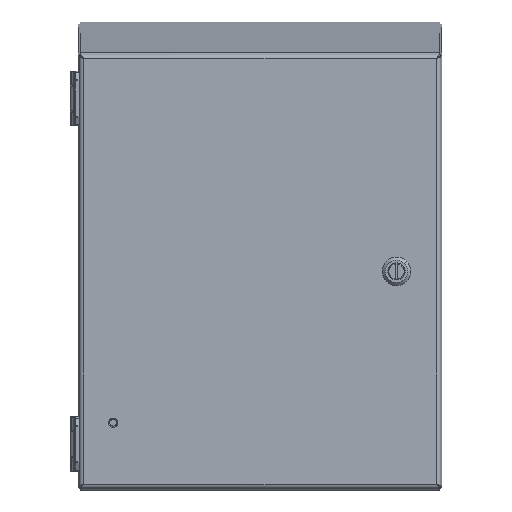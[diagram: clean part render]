
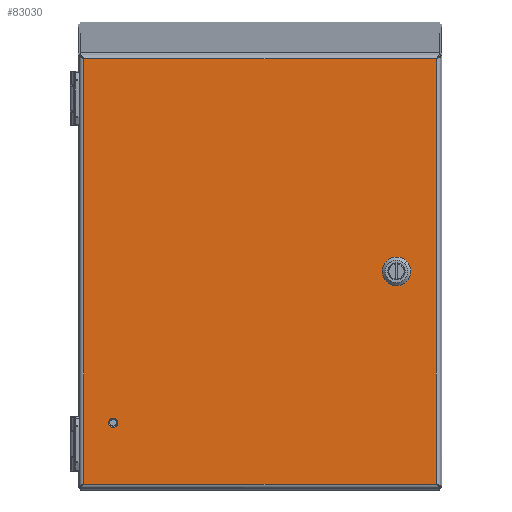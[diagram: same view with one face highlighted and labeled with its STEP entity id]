
A CAD part, top view. The second image highlights one B-rep face of the part: STEP entity #83030.
In plain terms, the highlighted planar face has unit normal (0, 0, 1).
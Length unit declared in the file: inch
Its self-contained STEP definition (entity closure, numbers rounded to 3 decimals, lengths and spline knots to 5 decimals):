
#81199=CARTESIAN_POINT('',(-4.035,-4.16,0.81));
#81200=DIRECTION('',(0.,0.,1.));
#81201=DIRECTION('',(-1.,0.,0.));
#81202=AXIS2_PLACEMENT_3D('',#81199,#81200,#81201);
#81207=CARTESIAN_POINT('',(-4.035,-4.16,0.81));
#81208=DIRECTION('',(0.,0.,1.));
#81209=DIRECTION('',(1.,0.,0.));
#81210=AXIS2_PLACEMENT_3D('',#81207,#81208,#81209);
#81215=DIRECTION('',(0.707,0.707,0.));
#81216=VECTOR('',#81215,0.30984);
#81217=CARTESIAN_POINT('',(3.44447,0.08845,0.81));
#81218=LINE('',#81217,#81216);
#81222=CARTESIAN_POINT('',(3.752,0.,0.81));
#81223=DIRECTION('',(0.,0.,1.));
#81224=DIRECTION('',(-0.961,0.276,0.));
#81225=AXIS2_PLACEMENT_3D('',#81222,#81223,#81224);
#81230=DIRECTION('',(-0.707,0.707,0.));
#81231=VECTOR('',#81230,0.30984);
#81232=CARTESIAN_POINT('',(3.66355,-0.30753,0.81));
#81233=LINE('',#81232,#81231);
#81237=CARTESIAN_POINT('',(3.752,0.,0.81));
#81238=DIRECTION('',(0.,0.,1.));
#81239=DIRECTION('',(-0.276,-0.961,0.));
#81240=AXIS2_PLACEMENT_3D('',#81237,#81238,#81239);
#81245=DIRECTION('',(-0.707,-0.707,0.));
#81246=VECTOR('',#81245,0.30984);
#81247=CARTESIAN_POINT('',(4.05953,-0.08845,0.81));
#81248=LINE('',#81247,#81246);
#81252=CARTESIAN_POINT('',(3.752,0.,0.81));
#81253=DIRECTION('',(0.,0.,1.));
#81254=DIRECTION('',(0.961,-0.276,0.));
#81255=AXIS2_PLACEMENT_3D('',#81252,#81253,#81254);
#81260=DIRECTION('',(0.707,-0.707,0.));
#81261=VECTOR('',#81260,0.30984);
#81262=CARTESIAN_POINT('',(3.84045,0.30753,0.81));
#81263=LINE('',#81262,#81261);
#81267=CARTESIAN_POINT('',(3.752,0.,0.81));
#81268=DIRECTION('',(0.,0.,1.));
#81269=DIRECTION('',(0.276,0.961,0.));
#81270=AXIS2_PLACEMENT_3D('',#81267,#81268,#81269);
#81275=DIRECTION('',(1.,0.,0.));
#81276=VECTOR('',#81275,9.7);
#81277=CARTESIAN_POINT('',(-4.85,-5.85,0.81));
#81278=LINE('',#81277,#81276);
#81367=DIRECTION('',(0.,1.,0.));
#81368=VECTOR('',#81367,11.7);
#81369=CARTESIAN_POINT('',(4.85,-5.85,0.81));
#81370=LINE('',#81369,#81368);
#81417=DIRECTION('',(-1.,0.,0.));
#81418=VECTOR('',#81417,9.7);
#81419=CARTESIAN_POINT('',(4.85,5.85,0.81));
#81420=LINE('',#81419,#81418);
#81516=DIRECTION('',(0.,-1.,0.));
#81517=VECTOR('',#81516,11.7);
#81518=CARTESIAN_POINT('',(-4.85,5.85,0.81));
#81519=LINE('',#81518,#81517);
#82767=CARTESIAN_POINT('',(-4.85,5.85,0.81));
#82768=CARTESIAN_POINT('',(-4.85,-5.85,0.81));
#82769=VERTEX_POINT('',#82767);
#82770=VERTEX_POINT('',#82768);
#82771=CARTESIAN_POINT('',(4.85,-5.85,0.81));
#82772=CARTESIAN_POINT('',(4.85,5.85,0.81));
#82773=VERTEX_POINT('',#82771);
#82774=VERTEX_POINT('',#82772);
#82859=CARTESIAN_POINT('',(-4.13155,-4.16,0.81));
#82860=CARTESIAN_POINT('',(-3.93845,-4.16,0.81));
#82861=VERTEX_POINT('',#82859);
#82862=VERTEX_POINT('',#82860);
#82867=CARTESIAN_POINT('',(3.44447,0.08845,0.81));
#82868=CARTESIAN_POINT('',(3.66355,0.30753,0.81));
#82869=VERTEX_POINT('',#82867);
#82870=VERTEX_POINT('',#82868);
#82871=CARTESIAN_POINT('',(3.84045,0.30753,0.81));
#82872=VERTEX_POINT('',#82871);
#82873=CARTESIAN_POINT('',(4.05953,0.08845,0.81));
#82874=VERTEX_POINT('',#82873);
#82875=CARTESIAN_POINT('',(4.05953,-0.08845,0.81));
#82876=VERTEX_POINT('',#82875);
#82877=CARTESIAN_POINT('',(3.84045,-0.30753,0.81));
#82878=VERTEX_POINT('',#82877);
#82879=CARTESIAN_POINT('',(3.66355,-0.30753,0.81));
#82880=VERTEX_POINT('',#82879);
#82881=CARTESIAN_POINT('',(3.44447,-0.08845,0.81));
#82882=VERTEX_POINT('',#82881);
#82991=CARTESIAN_POINT('',(0.,0.,0.81));
#82992=DIRECTION('',(0.,0.,1.));
#82993=DIRECTION('',(1.,0.,0.));
#82994=AXIS2_PLACEMENT_3D('',#82991,#82992,#82993);
#82995=PLANE('',#82994);
#82997=ORIENTED_EDGE('',*,*,#82996,.F.);
#82999=ORIENTED_EDGE('',*,*,#82998,.F.);
#83001=ORIENTED_EDGE('',*,*,#83000,.F.);
#83003=ORIENTED_EDGE('',*,*,#83002,.F.);
#83004=EDGE_LOOP('',(#82997,#82999,#83001,#83003));
#83005=FACE_OUTER_BOUND('',#83004,.F.);
#83007=ORIENTED_EDGE('',*,*,#83006,.T.);
#83009=ORIENTED_EDGE('',*,*,#83008,.T.);
#83010=EDGE_LOOP('',(#83007,#83009));
#83011=FACE_BOUND('',#83010,.F.);
#83013=ORIENTED_EDGE('',*,*,#83012,.F.);
#83015=ORIENTED_EDGE('',*,*,#83014,.T.);
#83017=ORIENTED_EDGE('',*,*,#83016,.F.);
#83019=ORIENTED_EDGE('',*,*,#83018,.T.);
#83021=ORIENTED_EDGE('',*,*,#83020,.F.);
#83023=ORIENTED_EDGE('',*,*,#83022,.T.);
#83025=ORIENTED_EDGE('',*,*,#83024,.F.);
#83027=ORIENTED_EDGE('',*,*,#83026,.T.);
#83028=EDGE_LOOP('',(#83013,#83015,#83017,#83019,#83021,#83023,#83025,#83027));
#83029=FACE_BOUND('',#83028,.F.);
#81203=CIRCLE('',#81202,0.09655);
#81211=CIRCLE('',#81210,0.09655);
#81226=CIRCLE('',#81225,0.32);
#81241=CIRCLE('',#81240,0.32);
#81256=CIRCLE('',#81255,0.32);
#81271=CIRCLE('',#81270,0.32);
#82996=EDGE_CURVE('',#82770,#82773,#81278,.T.);
#82998=EDGE_CURVE('',#82769,#82770,#81519,.T.);
#83000=EDGE_CURVE('',#82774,#82769,#81420,.T.);
#83002=EDGE_CURVE('',#82773,#82774,#81370,.T.);
#83006=EDGE_CURVE('',#82861,#82862,#81203,.T.);
#83008=EDGE_CURVE('',#82862,#82861,#81211,.T.);
#83012=EDGE_CURVE('',#82869,#82870,#81218,.T.);
#83014=EDGE_CURVE('',#82869,#82882,#81226,.T.);
#83016=EDGE_CURVE('',#82880,#82882,#81233,.T.);
#83018=EDGE_CURVE('',#82880,#82878,#81241,.T.);
#83020=EDGE_CURVE('',#82876,#82878,#81248,.T.);
#83022=EDGE_CURVE('',#82876,#82874,#81256,.T.);
#83024=EDGE_CURVE('',#82872,#82874,#81263,.T.);
#83026=EDGE_CURVE('',#82872,#82870,#81271,.T.);
#83030=ADVANCED_FACE('',(#83005,#83011,#83029),#82995,.T.);
